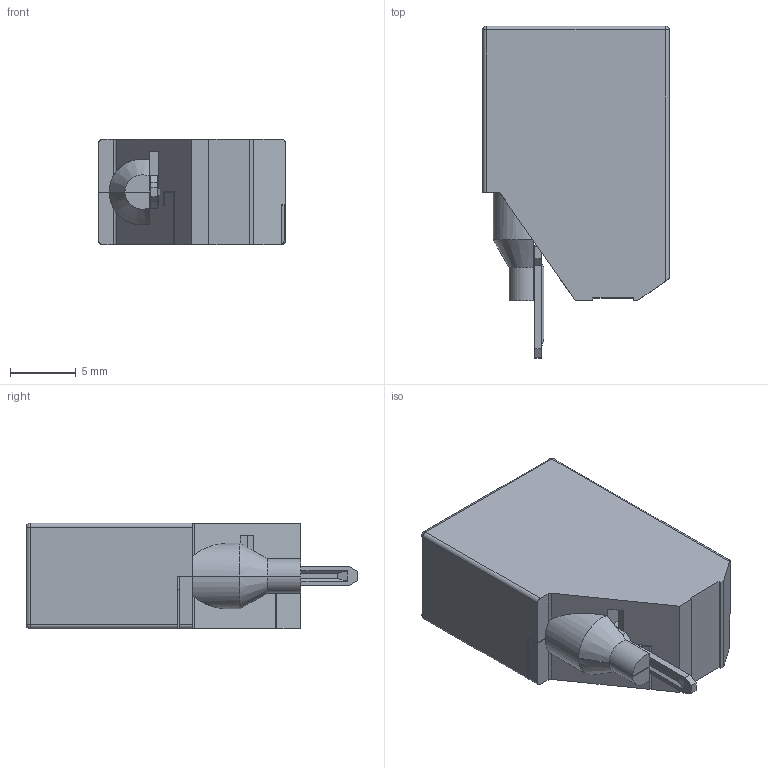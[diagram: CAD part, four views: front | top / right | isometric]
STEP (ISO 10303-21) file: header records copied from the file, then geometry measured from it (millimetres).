
FILE_DESCRIPTION(/* description */ (''),/* implementation_level */ '2;1');
FILE_NAME(/* name */ 'C:\Desktop\FIERA\093.62.stp',/* time_stamp */ '2015-03-05T15:27:17+01:00',/* author */ ('marco'),/* organization */ (''),/* preprocessor_version */ 'ST-DEVELOPER v15.6',/* originating_system */ 'Autodesk Inventor 2015',/* authorisation */ '');
FILE_SCHEMA (('AUTOMOTIVE_DESIGN { 1 0 10303 214 3 1 1 }'));
Length unit declared in the file: centimetre
Products named in the file (1): Assieme -d- rev. del 30.01.15
Bounding box: 14.15 x 25.15 x 8 mm (x, y, z)
Volume: 1874.8 mm3; surface area: 1759.9 mm2
Topology: 1 solids, 1 shells, 263 faces, 740 edges, 478 vertices
Faces by surface type: plane 206, cylinder 43, cone 8, sphere 4, bspline 2
Full cylindrical faces by diameter (mm): 2.1 x1
Entity records: 8702 total; most frequent: CARTESIAN_POINT 1527, ORIENTED_EDGE 1482, DIRECTION 1355, EDGE_CURVE 739, LINE 627, VECTOR 627, VERTEX_POINT 478, AXIS2_PLACEMENT_3D 364
